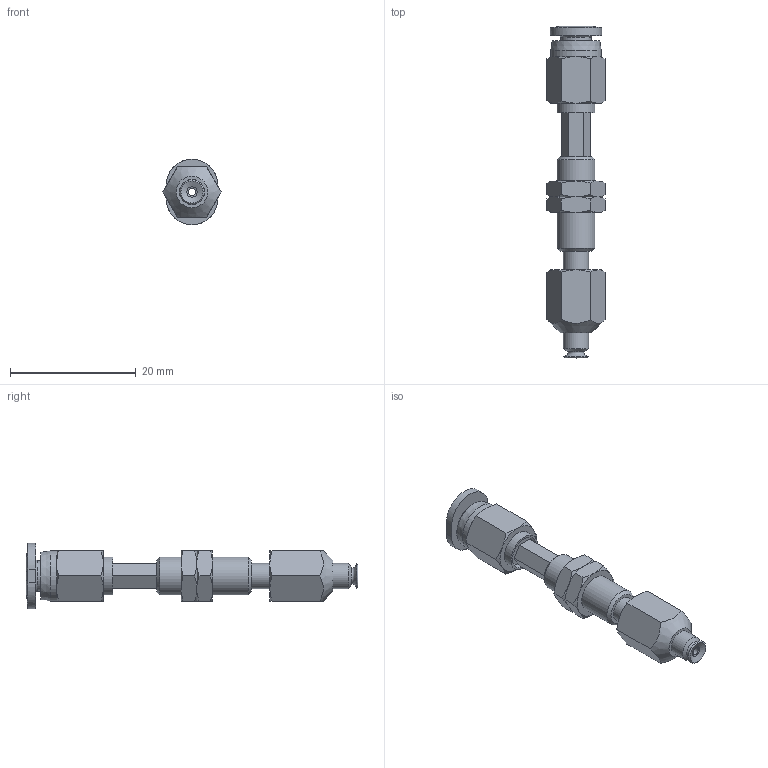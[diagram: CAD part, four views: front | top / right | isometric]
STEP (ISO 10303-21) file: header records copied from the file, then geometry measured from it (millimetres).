
FILE_DESCRIPTION(('STEP AP203'),'1');
FILE_NAME('-O.stp','2025-08-27T05:27:11',(' '),(' '),'Spatial InterOp 3D',' ',' ');
FILE_SCHEMA(('CONFIG_CONTROL_DESIGN'));
Length unit declared in the file: millimetre
Products named in the file (7): BNABPFTS-3.5A-3-※-O; ADAPTER; NAPFTS-2A-3-MBODY; Nut-3.5A-3-s; NAPFTS-3.5A-3-FBODY; BPFG-3.5A-※; PC-C_04-M3
Assembly tree (7 placements, depth 2):
  BNABPFTS-3.5A-3-※-O
    ADAPTER
    NAPFTS-2A-3-MBODY
    Nut-3.5A-3-s  x2
    NAPFTS-3.5A-3-FBODY
    BPFG-3.5A-※
    PC-C_04-M3
Bounding box: 9.24 x 52.77 x 10.4 mm (x, y, z)
Volume: 1225.1 mm3; surface area: 2557.2 mm2
Topology: 6 solids, 8 shells, 161 faces, 332 edges, 198 vertices
Faces by surface type: plane 63, cone 58, cylinder 23, torus 9, bspline 5, revolution 3
Full cylindrical faces by diameter (mm): 1.2 x3, 2 x2, 2.459 x1, 2.5 x2, 3 x3, 4 x3, 4.9 x1, 5.188 x2, 6 x2, 6.1 x1, 8 x1
Entity records: 4061 total; most frequent: CARTESIAN_POINT 1125, DIRECTION 543, ORIENTED_EDGE 456, AXIS2_PLACEMENT_3D 243, EDGE_CURVE 229, EDGE_LOOP 206, VERTEX_POINT 161, FACE_OUTER_BOUND 108
